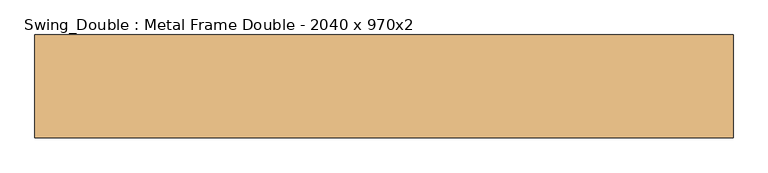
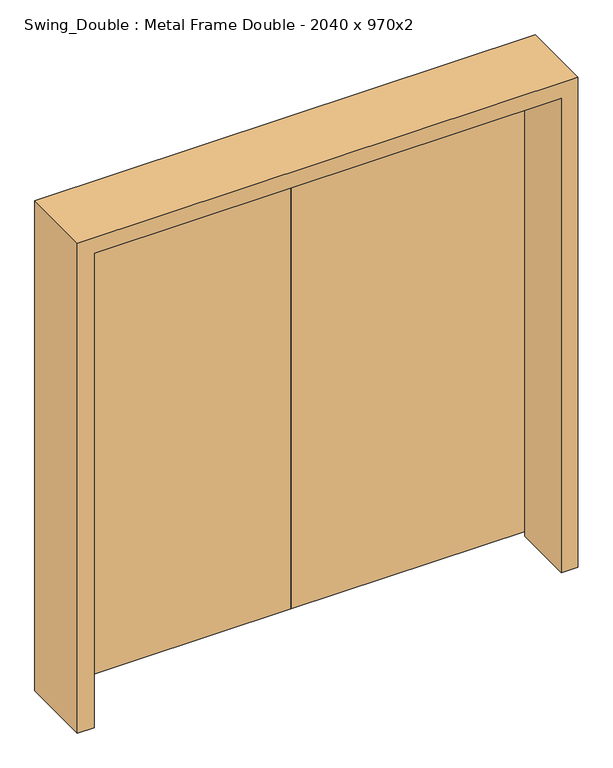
"""IFC4 building model written with IfcOpenShell, lengths in millimetres: door geometry, Swing_Double : Metal Frame Double - 2040 x 970x2."""

from ifc_helpers import new_model, si_unit, frame, origin, place, context, project, spatial, polyline, outline, extrude, faceted_brep, source, transform, mapped, element, save


def swing_double_metal_frame_double_2040_x_970x2_2b0cb67a(model_context):
    return source(origin(), model_context, "Body", "SolidModel", [
        extrude(outline(polyline([(-211.5, 150.0), (758.5, 150.0), (758.5, 110.0), (-211.5, 110.0), (-211.5, 150.0)])), frame((0.0, 0.0, 20.0), z_axis=(0.0, 0.0, 1.0), x_axis=(1.0, 0.0, 0.0)), (0.0, 0.0, 1.0), 2040.0),
        extrude(outline(polyline([(-211.5, 150.0), (-211.5, 110.0), (-1181.5, 110.0), (-1181.5, 150.0), (-211.5, 150.0)])), frame((0.0, 0.0, 20.0), z_axis=(0.0, 0.0, 1.0), x_axis=(1.0, 0.0, 0.0)), (0.0, 0.0, 1.0), 2040.0),
        faceted_brep([(808.5, -150.0, 0.0), (740.5, -150.0, 0.0), (740.5, 108.0, 0.0), (760.5, 108.0, 0.0), (760.5, 150.0, 0.0), (808.5, 150.0, 0.0), (808.5, -150.0, 2110.0), (-1231.5, -150.0, 2110.0), (-1231.5, -150.0, 0.0), (-1163.5, -150.0, 0.0), (-1163.5, -150.0, 2042.0), (740.5, -150.0, 2042.0), (740.5, 108.0, 2042.0), (-1163.5, 108.0, 2042.0), (-1163.5, 108.0, 0.0), (-1183.5, 108.0, 0.0), (-1183.5, 108.0, 2062.0), (760.5, 108.0, 2062.0), (760.5, 150.0, 2062.0), (-1183.5, 150.0, 2062.0), (-1183.5, 150.0, 0.0), (-1231.5, 150.0, 0.0), (-1231.5, 150.0, 2110.0), (808.5, 150.0, 2110.0)], [[[0, 1, 2, 3, 4, 5]], [[1, 0, 6, 7, 8, 9, 10, 11]], [[2, 1, 11, 12]], [[3, 2, 12, 13, 14, 15, 16, 17]], [[4, 3, 17, 18]], [[5, 4, 18, 19, 20, 21, 22, 23]], [[0, 5, 23, 6]], [[19, 16, 15, 20]], [[8, 21, 20, 15, 14, 9]], [[7, 22, 21, 8]], [[13, 10, 9, 14]], [[6, 23, 22, 7]], [[18, 17, 16, 19]], [[12, 11, 10, 13]]]),
    ])


if __name__ == "__main__":
    model = new_model("IFC4")
    model_context = context("Model", 3, world=origin())
    ifc_project = project(units=[si_unit("LENGTHUNIT", "METRE", prefix="MILLI")], contexts=[model_context])
    site = spatial("IfcSite", under=ifc_project)
    building = spatial("IfcBuilding", under=site)
    placement = place(None, origin())
    swing_double_metal_frame_double_2040_x_970x2_shape = swing_double_metal_frame_double_2040_x_970x2_2b0cb67a(model_context)
    element("IfcDoor", 1, ObjectType="Swing_Double : Metal Frame Double - 2040 x 970x2", at=placement, inside=building, context=model_context, shape_type="MappedRepresentation", body=[
        mapped(swing_double_metal_frame_double_2040_x_970x2_shape, transform((0.0, 0.0, 0.0), x_axis=(1.0, 0.0, 0.0), y_axis=(0.0, 1.0, 0.0), z_axis=(0.0, 0.0, 1.0))),
    ])
    save(model, "model.ifc")
